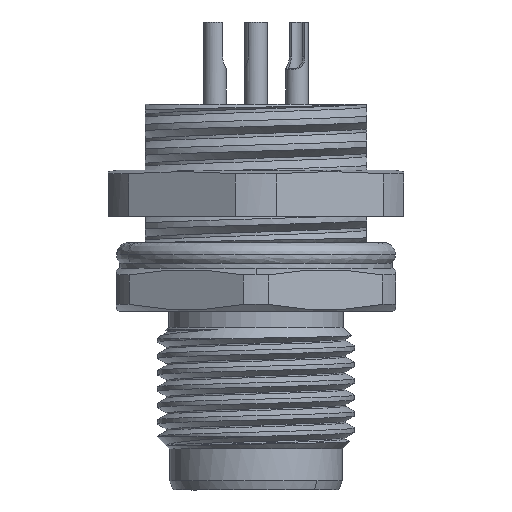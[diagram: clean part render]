
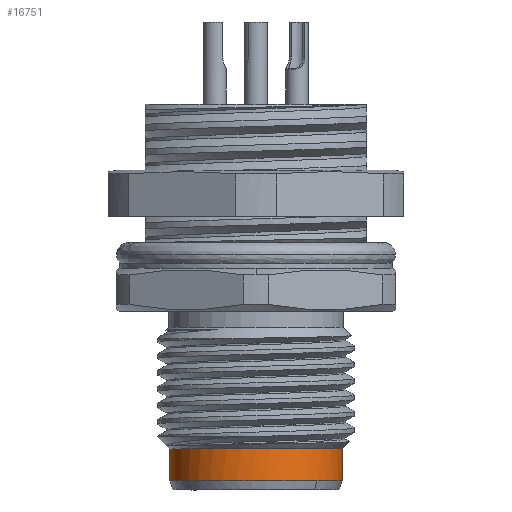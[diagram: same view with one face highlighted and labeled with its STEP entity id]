
A CAD part, front view. The second image highlights one B-rep face of the part: STEP entity #16751.
In plain terms, the highlighted cylindrical face has radius 5.25 mm (diameter 10.5 mm), a partial arc.
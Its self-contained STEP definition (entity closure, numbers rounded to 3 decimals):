
#413 = DIRECTION ( 'NONE',  ( -1., 0., 0. ) ) ;
#1403 = DIRECTION ( 'NONE',  ( -1., 0., 0. ) ) ;
#5366 = VERTEX_POINT ( 'NONE', #12557 ) ;
#6374 = CARTESIAN_POINT ( 'NONE',  ( 14.65, 9.4, -23.507 ) ) ;
#7128 = EDGE_CURVE ( 'NONE', #21704, #12842, #25839, .T. ) ;
#8203 = ORIENTED_EDGE ( 'NONE', *, *, #28605, .T. ) ;
#8275 = CARTESIAN_POINT ( 'NONE',  ( 4.15, 9.4, -22.531 ) ) ;
#8387 = DIRECTION ( 'NONE',  ( 0., 0., -1. ) ) ;
#9058 = CARTESIAN_POINT ( 'NONE',  ( 4.15, 9.4, -23.507 ) ) ;
#9524 = VECTOR ( 'NONE', #8387, 1000. ) ;
#10770 = DIRECTION ( 'NONE',  ( 0., 0., -1. ) ) ;
#12557 = CARTESIAN_POINT ( 'NONE',  ( 13.112, 5.688, -23.507 ) ) ;
#12842 = VERTEX_POINT ( 'NONE', #9058 ) ;
#13097 = AXIS2_PLACEMENT_3D ( 'NONE', #33080, #13947, #1403 ) ;
#13947 = DIRECTION ( 'NONE',  ( 0., 0., 1. ) ) ;
#15719 = CIRCLE ( 'NONE', #21849, 5.25 ) ;
#15741 = CARTESIAN_POINT ( 'NONE',  ( 14.65, 9.4, -22.531 ) ) ;
#16072 = DIRECTION ( 'NONE',  ( 0., 0., 1. ) ) ;
#16751 = ADVANCED_FACE ( 'NONE', ( #22948 ), #30470, .T. ) ;
#19034 = ORIENTED_EDGE ( 'NONE', *, *, #28780, .F. ) ;
#21704 = VERTEX_POINT ( 'NONE', #31515 ) ;
#21738 = DIRECTION ( 'NONE',  ( 0., 0., -1. ) ) ;
#21849 = AXIS2_PLACEMENT_3D ( 'NONE', #23758, #16072, #34720 ) ;
#22360 = EDGE_CURVE ( 'NONE', #28859, #26040, #29330, .T. ) ;
#22792 = ORIENTED_EDGE ( 'NONE', *, *, #7128, .T. ) ;
#22948 = FACE_OUTER_BOUND ( 'NONE', #28112, .T. ) ;
#23047 = ORIENTED_EDGE ( 'NONE', *, *, #23643, .T. ) ;
#23613 = CARTESIAN_POINT ( 'NONE',  ( 9.4, 9.4, -21.556 ) ) ;
#23643 = EDGE_CURVE ( 'NONE', #5366, #26040, #33114, .T. ) ;
#23758 = CARTESIAN_POINT ( 'NONE',  ( 9.4, 9.4, -23.507 ) ) ;
#25446 = AXIS2_PLACEMENT_3D ( 'NONE', #23613, #26520, #26286 ) ;
#25509 = ORIENTED_EDGE ( 'NONE', *, *, #22360, .F. ) ;
#25839 = LINE ( 'NONE', #8275, #9524 ) ;
#26040 = VERTEX_POINT ( 'NONE', #6374 ) ;
#26286 = DIRECTION ( 'NONE',  ( 1., 0., 0. ) ) ;
#26520 = DIRECTION ( 'NONE',  ( 0., 0., 1. ) ) ;
#27786 = CIRCLE ( 'NONE', #25446, 5.25 ) ;
#28112 = EDGE_LOOP ( 'NONE', ( #25509, #19034, #22792, #8203, #23047 ) ) ;
#28605 = EDGE_CURVE ( 'NONE', #12842, #5366, #15719, .T. ) ;
#28780 = EDGE_CURVE ( 'NONE', #21704, #28859, #27786, .T. ) ;
#28859 = VERTEX_POINT ( 'NONE', #33161 ) ;
#29330 = LINE ( 'NONE', #15741, #29781 ) ;
#29781 = VECTOR ( 'NONE', #10770, 1000. ) ;
#29912 = CARTESIAN_POINT ( 'NONE',  ( 9.4, 9.4, -22.531 ) ) ;
#30084 = AXIS2_PLACEMENT_3D ( 'NONE', #29912, #21738, #413 ) ;
#30470 = CYLINDRICAL_SURFACE ( 'NONE', #30084, 5.25 ) ;
#31515 = CARTESIAN_POINT ( 'NONE',  ( 4.15, 9.4, -21.556 ) ) ;
#33080 = CARTESIAN_POINT ( 'NONE',  ( 9.4, 9.4, -23.507 ) ) ;
#33114 = CIRCLE ( 'NONE', #13097, 5.25 ) ;
#33161 = CARTESIAN_POINT ( 'NONE',  ( 14.65, 9.4, -21.556 ) ) ;
#34720 = DIRECTION ( 'NONE',  ( -1., 0., 0. ) ) ;
